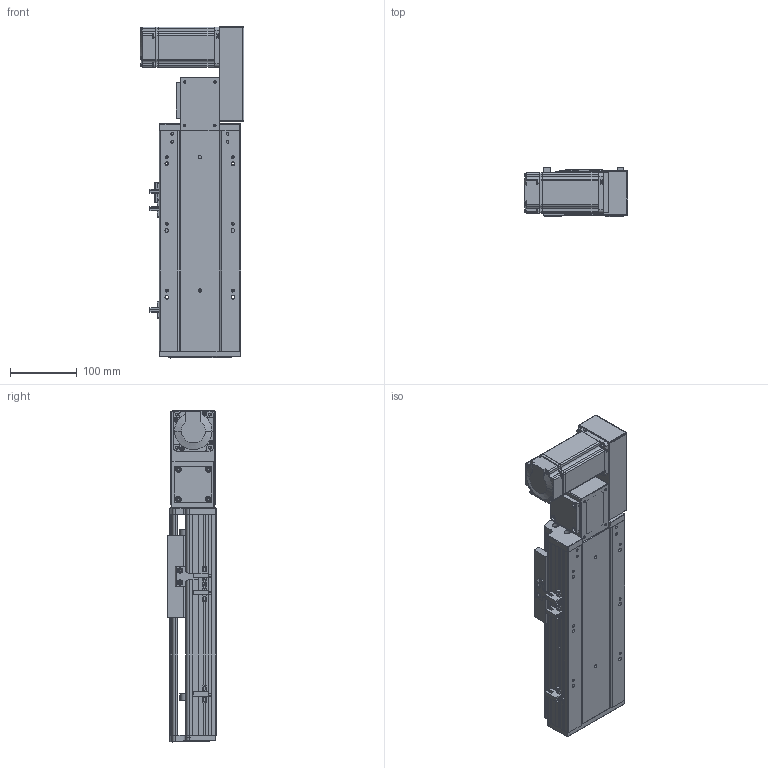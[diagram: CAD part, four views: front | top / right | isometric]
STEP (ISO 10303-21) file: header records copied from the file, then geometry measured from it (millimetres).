
FILE_DESCRIPTION (( 'STEP AP203' ), '1' );
FILE_NAME ('RY120-T-300-RK.SLDASM_100.step', '2021-03-01T03:52:14', ( '盈信电脑' ), ( '东莞市道滘镇水果街19号' ), 'SwSTEP 2.0', 'SolidWorks 2012', '' );
FILE_SCHEMA (( 'CONFIG_CONTROL_DESIGN' ));
Length unit declared in the file: millimetre
Products named in the file (17): RY120-T萇儂欶; RY120-T主同步轮轴承压盖; RY120-T-300-RK.SLDASM_100; 15; RY120-T萇儂假蚾啣; RY120-T蹟翐M4; RY120-T翋肮祭盓傅釱; RY120-T翋肮祭謫裔啣; RY120-T肮祭湍揤踡輸2; 滅袉蝶18-10; RY120-T肮祭湍揤踡輸1; 覜茼ん672; RY120外置感应片(140共用）; RY120-T-300-RK倰第奻裔啣_100; RY120綴裔啣; RY120肮祭湍臏賑輸; RY120-T-300-RK倰第菁釱_100
Assembly tree (22 placements, depth 2):
  RY120-T-300-RK.SLDASM_100
    RY120-T-300-RK倰第菁釱_100
    RY120-T-300-RK倰第奻裔啣_100
    RY120肮祭湍臏賑輸
    RY120綴裔啣
    覜茼ん672  x3
    RY120外置感应片(140共用）
    RY120-T肮祭湍揤踡輸1
    RY120-T肮祭湍揤踡輸2
    RY120-T翋肮祭盓傅釱
    滅袉蝶18-10  x2
    RY120-T翋肮祭謫裔啣
    15
    RY120-T萇儂假蚾啣
    RY120-T蹟翐M4  x4
    RY120-T萇儂欶
    RY120-T主同步轮轴承压盖
Bounding box: 155.5 x 73 x 497.5 mm (x, y, z)
Volume: 1648002.9 mm3; surface area: 569300.8 mm2
Topology: 23 solids, 23 shells, 2524 faces, 6832 edges, 4408 vertices
Faces by surface type: plane 1372, cylinder 882, cone 181, bspline 89
Entity records: 78745 total; most frequent: CARTESIAN_POINT 19094, ORIENTED_EDGE 12208, DIRECTION 11654, EDGE_CURVE 6104, VERTEX_POINT 3995, VECTOR 3992, LINE 3992, AXIS2_PLACEMENT_3D 3831
